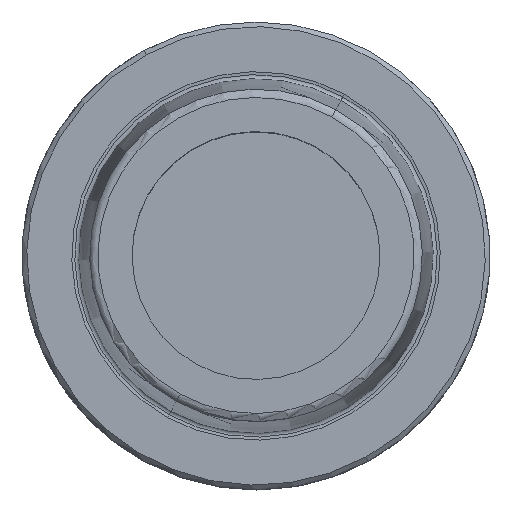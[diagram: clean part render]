
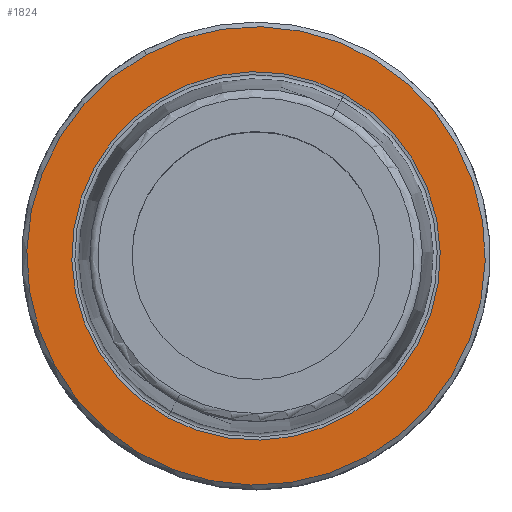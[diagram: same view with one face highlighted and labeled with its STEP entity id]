
A CAD part, top view. The second image highlights one B-rep face of the part: STEP entity #1824.
In plain terms, the highlighted planar face has unit normal (0, 0, 1).
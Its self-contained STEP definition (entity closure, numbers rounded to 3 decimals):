
#1766=AXIS2_PLACEMENT_3D('Circle Axis2P3D',#1764,#1765,$) ;
#1786=AXIS2_PLACEMENT_3D('Circle Axis2P3D',#1784,#1785,$) ;
#1800=AXIS2_PLACEMENT_3D('Plane Axis2P3D',#1797,#1798,#1799) ;
#1808=AXIS2_PLACEMENT_3D('Circle Axis2P3D',#1806,#1807,$) ;
#1817=AXIS2_PLACEMENT_3D('Circle Axis2P3D',#1815,#1816,$) ;
#1761=CARTESIAN_POINT('Vertex',(23.492,-43.002,0.)) ;
#1764=CARTESIAN_POINT('Axis2P3D Location',(0.,0.,0.)) ;
#1768=CARTESIAN_POINT('Vertex',(-23.492,43.002,0.)) ;
#1784=CARTESIAN_POINT('Axis2P3D Location',(0.,0.,0.)) ;
#1797=CARTESIAN_POINT('Axis2P3D Location',(0.,-38.285,0.)) ;
#1806=CARTESIAN_POINT('Axis2P3D Location',(0.,0.,0.)) ;
#1810=CARTESIAN_POINT('Vertex',(18.88,34.56,0.)) ;
#1812=CARTESIAN_POINT('Vertex',(-18.88,-34.56,0.)) ;
#1815=CARTESIAN_POINT('Axis2P3D Location',(0.,0.,0.)) ;
#1765=DIRECTION('Axis2P3D Direction',(0.,0.,-1.)) ;
#1785=DIRECTION('Axis2P3D Direction',(0.,0.,-1.)) ;
#1798=DIRECTION('Axis2P3D Direction',(0.,0.,-1.)) ;
#1799=DIRECTION('Axis2P3D XDirection',(-1.,0.,0.)) ;
#1807=DIRECTION('Axis2P3D Direction',(0.,0.,-1.)) ;
#1816=DIRECTION('Axis2P3D Direction',(0.,0.,-1.)) ;
#1803=ORIENTED_EDGE('',*,*,#1770,.F.) ;
#1804=ORIENTED_EDGE('',*,*,#1788,.F.) ;
#1821=ORIENTED_EDGE('',*,*,#1814,.T.) ;
#1822=ORIENTED_EDGE('',*,*,#1819,.T.) ;
#1823=FACE_BOUND('',#1820,.T.) ;
#1824=ADVANCED_FACE('NOCUT',(#1805,#1823),#1801,.F.) ;
#1767=CIRCLE('generated circle',#1766,49.) ;
#1787=CIRCLE('generated circle',#1786,49.) ;
#1809=CIRCLE('generated circle',#1808,39.381) ;
#1818=CIRCLE('generated circle',#1817,39.381) ;
#1770=EDGE_CURVE('',#1762,#1769,#1767,.T.) ;
#1788=EDGE_CURVE('',#1769,#1762,#1787,.T.) ;
#1814=EDGE_CURVE('',#1811,#1813,#1809,.T.) ;
#1819=EDGE_CURVE('',#1813,#1811,#1818,.T.) ;
#1802=EDGE_LOOP('',(#1803,#1804)) ;
#1820=EDGE_LOOP('',(#1821,#1822)) ;
#1805=FACE_OUTER_BOUND('',#1802,.T.) ;
#1801=PLANE('',#1800) ;
#1762=VERTEX_POINT('',#1761) ;
#1769=VERTEX_POINT('',#1768) ;
#1811=VERTEX_POINT('',#1810) ;
#1813=VERTEX_POINT('',#1812) ;
